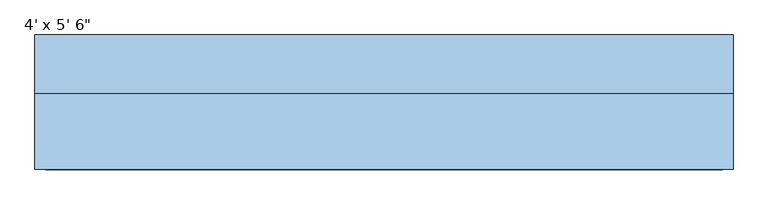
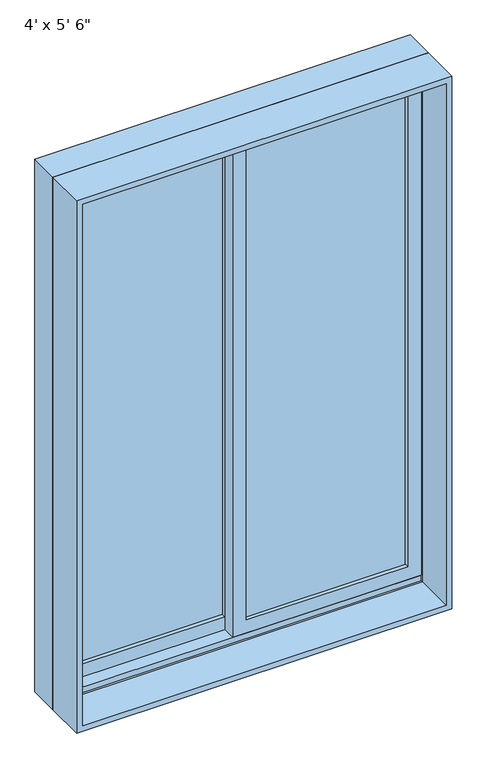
"""IFC4 building model written with IfcOpenShell, lengths in millimetres: window geometry."""

from ifc_helpers import new_model, si_unit, frame, origin, place, context, project, spatial, polyline, outline, extrude, faceted_brep, source, transform, mapped, element, save


def window_1218291c(model_context):
    return source(origin(), model_context, "Body", "SolidModel", [
        extrude(outline(polyline([(933.45, -590.55), (933.45, 22.225), (2724.15, 22.225), (2724.15, -590.55), (933.45, -590.55)]), holes=[polyline([(2679.7, -22.225), (996.95, -22.225), (996.95, -546.1), (2679.7, -546.1), (2679.7, -22.225)])]), frame((0.0, 72.39, 0.0), z_axis=(0.0, 1.0, 0.0), x_axis=(0.0, 0.0, 1.0)), (0.0, 0.0, 1.0), 44.45),
        extrude(outline(polyline([(952.5, 590.55), (2724.15, 590.55), (2724.15, -22.225), (952.5, -22.225), (952.5, 590.55)]), holes=[polyline([(996.95, 22.225), (2679.7, 22.225), (2679.7, 546.1), (996.95, 546.1), (996.95, 22.225)])]), frame((0.0, 27.94, 0.0), z_axis=(0.0, 1.0, 0.0), x_axis=(0.0, 0.0, 1.0)), (0.0, 0.0, 1.0), 44.45),
        faceted_brep([(-609.6, 21.59, 914.4), (-609.6, 123.19, 914.4), (609.6, 123.19, 914.4), (609.6, 21.59, 914.4), (-568.6778905, 123.19, 2702.2778905), (-568.6778905, 116.84, 2702.2778905), (-568.6778905, 116.84, 933.45), (-568.6778905, 123.19, 933.45), (568.6778905, 116.84, 2702.2778905), (568.6778905, 116.84, 933.45), (590.55, 116.84, 933.45), (590.55, 116.84, 2724.15), (-590.55, 116.84, 2724.15), (-590.55, 116.84, 933.45), (-590.55, 21.59, 2724.15), (-590.55, 21.59, 933.45), (-590.55, 27.94, 933.45), (-590.55, 27.94, 952.5), (-590.55, 72.39, 952.5), (-590.55, 72.39, 933.45), (609.6, 21.59, 2743.2), (-609.6, 21.59, 2743.2), (590.55, 21.59, 2724.15), (590.55, 21.59, 933.45), (-609.6, 123.19, 2743.2), (609.6, 123.19, 2743.2), (568.6778905, 123.19, 933.45), (568.6778905, 123.19, 2702.2778905), (590.55, 72.39, 933.45), (590.55, 72.39, 952.5), (590.55, 27.94, 952.5), (590.55, 27.94, 933.45)], [[[0, 1, 2, 3]], [[4, 5, 6, 7]], [[5, 8, 9, 10, 11, 12, 13, 6]], [[12, 14, 15, 16, 17, 18, 19, 13]], [[0, 3, 20, 21], [22, 23, 15, 14]], [[24, 1, 0, 21]], [[2, 1, 24, 25], [4, 7, 26, 27]], [[5, 4, 27, 8]], [[12, 11, 22, 14]], [[21, 20, 25, 24]], [[8, 27, 26, 9]], [[22, 11, 10, 28, 29, 30, 31, 23]], [[20, 3, 2, 25]], [[26, 7, 6, 13, 19, 28, 10, 9]], [[28, 19, 18, 29]], [[29, 18, 17, 30]], [[30, 17, 16, 31]], [[15, 23, 31, 16]]]),
        extrude(outline(polyline([(2743.2, -609.6), (914.4, -609.6), (914.4, 609.6), (2743.2, 609.6), (2743.2, -609.6)]), holes=[polyline([(2724.15, 590.55), (933.45, 590.55), (933.45, -590.55), (2724.15, -590.55), (2724.15, 590.55)])]), frame((0.0, -111.76, 0.0), z_axis=(0.0, 1.0, 0.0), x_axis=(0.0, 0.0, 1.0)), (0.0, 0.0, 1.0), 133.35),
        extrude(outline(polyline([(546.1, 59.69), (546.1, 53.34), (22.225, 53.34), (22.225, 59.69), (546.1, 59.69)])), frame((0.0, 0.0, 996.95), z_axis=(0.0, 0.0, 1.0), x_axis=(1.0, 0.0, 0.0)), (0.0, 0.0, 1.0), 1682.75),
        extrude(outline(polyline([(546.1, 46.99), (546.1, 40.64), (22.225, 40.64), (22.225, 46.99), (546.1, 46.99)])), frame((0.0, 0.0, 996.95), z_axis=(0.0, 0.0, 1.0), x_axis=(1.0, 0.0, 0.0)), (0.0, 0.0, 1.0), 1682.75),
        extrude(outline(polyline([(-22.225, 104.14), (-22.225, 97.79), (-546.1, 97.79), (-546.1, 104.14), (-22.225, 104.14)])), frame((0.0, 0.0, 996.95), z_axis=(0.0, 0.0, 1.0), x_axis=(1.0, 0.0, 0.0)), (0.0, 0.0, 1.0), 1682.75),
        extrude(outline(polyline([(-22.225, 91.44), (-22.225, 85.09), (-546.1, 85.09), (-546.1, 91.44), (-22.225, 91.44)])), frame((0.0, 0.0, 996.95), z_axis=(0.0, 0.0, 1.0), x_axis=(1.0, 0.0, 0.0)), (0.0, 0.0, 1.0), 1682.75),
    ])


if __name__ == "__main__":
    model = new_model("IFC4")
    model_context = context("Model", 3, world=origin())
    ifc_project = project(units=[si_unit("LENGTHUNIT", "METRE", prefix="MILLI")], contexts=[model_context])
    site = spatial("IfcSite", under=ifc_project)
    building = spatial("IfcBuilding", under=site)
    placement = place(None, origin())
    window_shape = window_1218291c(model_context)
    element("IfcWindow", 1, ObjectType="Planitar-Sliding-Double : 4' x 5' 6\"", at=placement, inside=building, context=model_context, shape_type="MappedRepresentation", body=[
        mapped(window_shape, transform((0.0, 0.0, 0.0), x_axis=(1.0, 0.0, 0.0), y_axis=(0.0, 1.0, 0.0), z_axis=(0.0, 0.0, 1.0))),
    ])
    save(model, "model.ifc")
